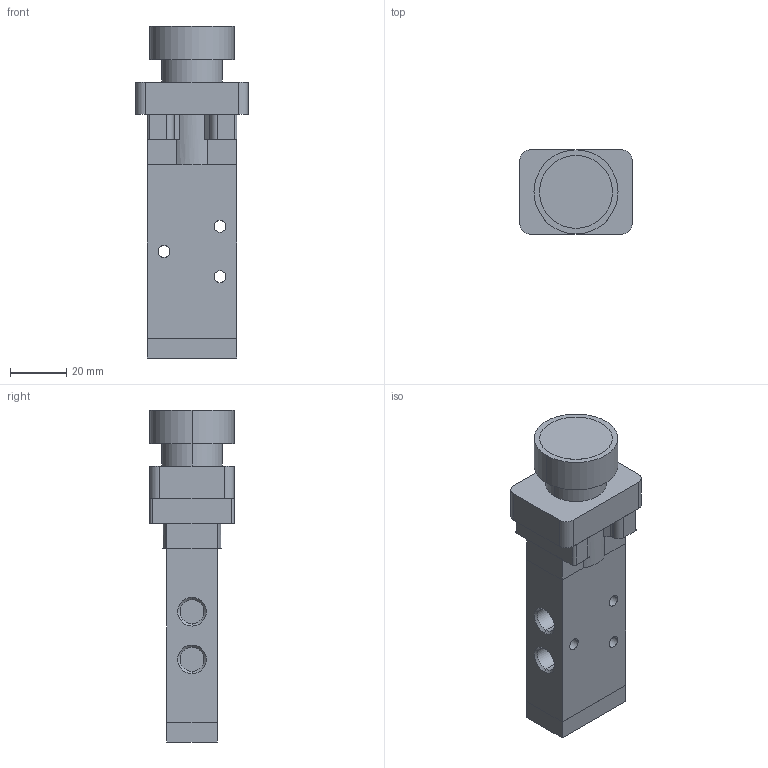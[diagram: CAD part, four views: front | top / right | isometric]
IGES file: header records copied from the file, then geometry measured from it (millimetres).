
Global section: file name: No Iges File Name specified; native system: AutoDesk Inventor R11.0; preprocessor: AutoDesk Inventor Iges Exporter R11.0; author: No Author specified; organization: No Organization specified; date: 20061219.114215; units: millimetre
Bounding box: 40 x 30.02 x 118.5 mm (x, y, z)
Volume: 74507.5 mm3; surface area: 16997.9 mm2
Topology: 1 solids, 1 shells, 100 faces, 250 edges, 162 vertices
Faces by surface type: plane 45, bspline 25, cylinder 18, revolution 12
